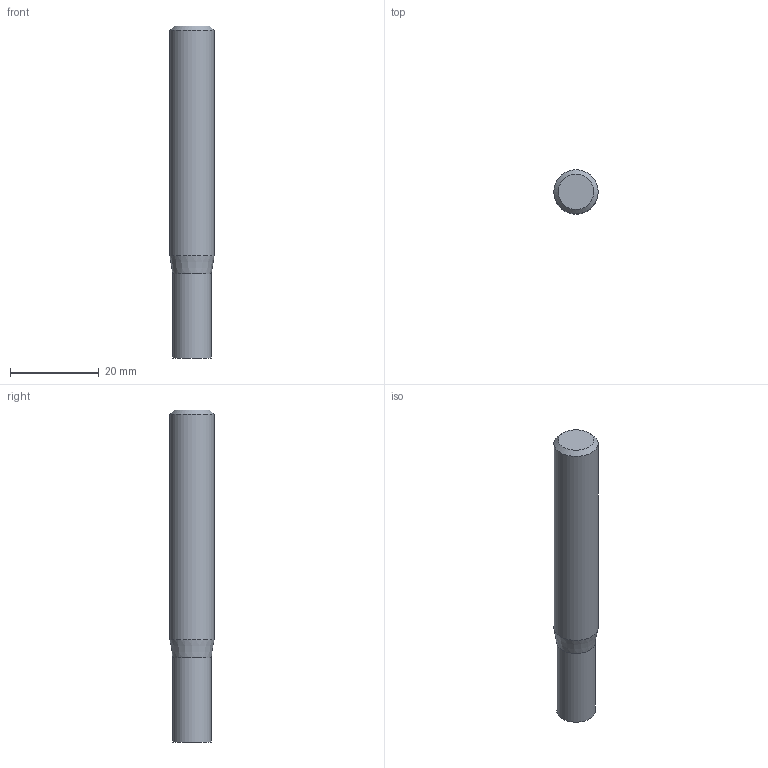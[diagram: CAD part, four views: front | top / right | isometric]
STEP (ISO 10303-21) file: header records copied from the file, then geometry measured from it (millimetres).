
FILE_DESCRIPTION((''),'2;1');
FILE_NAME('C:\Users\nsx150\AppData\Local\Temp\Mastercam 2021\98T1Q6BTT1\TEMP.step','2021-10-21T14:49:43',(''),(''),'STEP Write','Mastercam 2021 ... CNC Software, Inc.','');
FILE_SCHEMA(('AUTOMOTIVE_DESIGN'));
Length unit declared in the file: millimetre
Products named in the file (1): None
Bounding box: 10 x 10 x 75 mm (x, y, z)
Volume: 5473 mm3; surface area: 2508.9 mm2
Topology: 2 solids, 2 shells, 8 faces, 10 edges, 6 vertices
Faces by surface type: plane 4, cylinder 2, cone 2
Full cylindrical faces by diameter (mm): 8.7 x1, 10 x1
Entity records: 190 total; most frequent: DIRECTION 32, CARTESIAN_POINT 22, AXIS2_PLACEMENT_3D 16, ORIENTED_EDGE 12, EDGE_LOOP 12, STYLED_ITEM 11, ADVANCED_FACE 8, VERTEX_POINT 6
